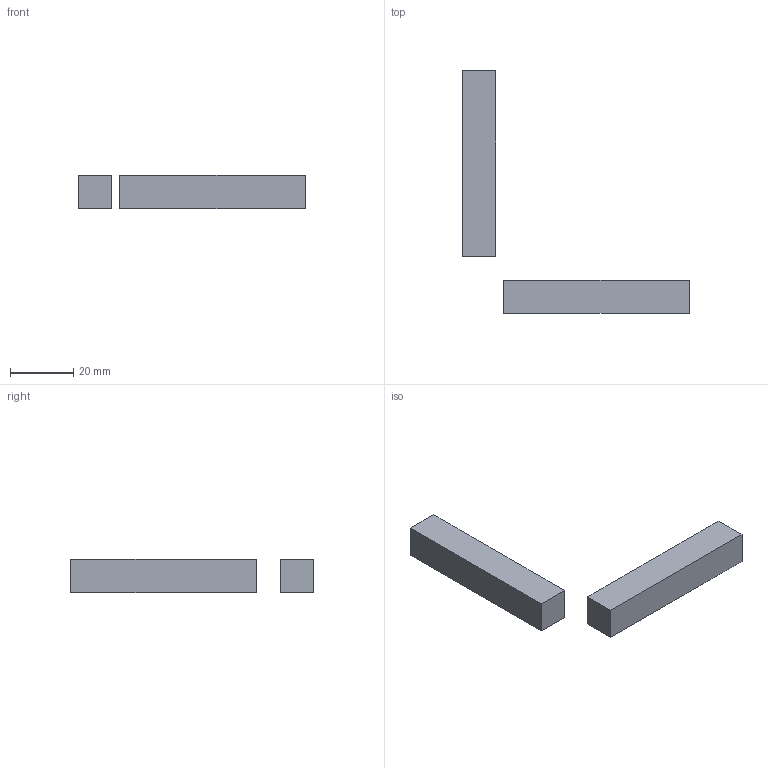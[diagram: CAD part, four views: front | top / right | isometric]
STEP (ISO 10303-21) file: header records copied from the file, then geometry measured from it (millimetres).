
FILE_DESCRIPTION(('Open CASCADE Model'),'2;1');
FILE_NAME('torquers','2026-08-12T02:42:45',('Author'),('Open CASCADE'), 'Open CASCADE STEP processor 7.9','build123d','Unknown');
FILE_SCHEMA(('AUTOMOTIVE_DESIGN { 1 0 10303 214 1 1 1 1 }'));
Length unit declared in the file: millimetre
Products named in the file (3): torquers; COMPOUND
Assembly tree (2 placements, depth 2):
  torquers
    COMPOUND
    COMPOUND
Bounding box: 72 x 77 x 10.5 mm (x, y, z)
Volume: 13009.5 mm3; surface area: 5397 mm2
Topology: 2 solids, 2 shells, 12 faces, 24 edges, 16 vertices
Faces by surface type: plane 12
Entity records: 664 total; most frequent: CARTESIAN_POINT 103, DIRECTION 102, LINE 72, VECTOR 72, ORIENTED_EDGE 48, PCURVE 48, DEFINITIONAL_REPRESENTATION 48, EDGE_CURVE 24
